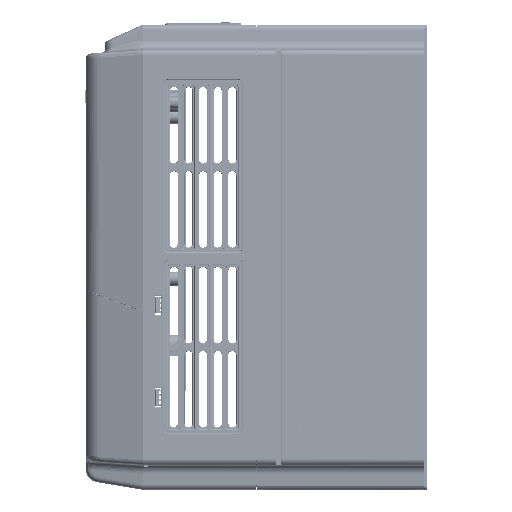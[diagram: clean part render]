
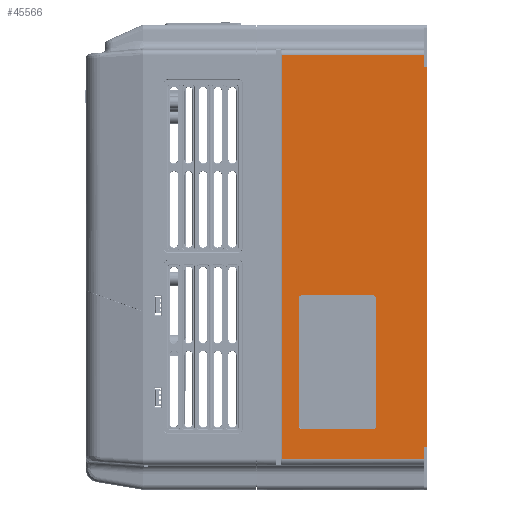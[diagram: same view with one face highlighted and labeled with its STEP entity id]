
A CAD part, left-side view. The second image highlights one B-rep face of the part: STEP entity #45566.
In plain terms, the highlighted planar face has unit normal (-1, 0, 0).
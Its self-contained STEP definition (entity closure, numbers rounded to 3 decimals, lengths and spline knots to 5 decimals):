
#1972=DIRECTION('',(0.,0.,-1.));
#1973=VECTOR('',#1972,0.0065);
#1974=CARTESIAN_POINT('',(-0.0775,-0.0004,-0.1));
#1975=LINE('',#1974,#1973);
#2140=DIRECTION('',(0.,0.,-1.));
#2141=VECTOR('',#2140,0.0065);
#2142=CARTESIAN_POINT('',(-0.0775,-0.0004,0.1065));
#2143=LINE('',#2142,#2141);
#6550=DIRECTION('',(0.,1.,0.));
#6551=VECTOR('',#6550,0.0751);
#6552=CARTESIAN_POINT('',(-0.0775,-0.0004,-0.1065));
#6553=LINE('',#6552,#6551);
#6756=DIRECTION('',(0.,-1.,0.));
#6757=VECTOR('',#6756,0.0751);
#6758=CARTESIAN_POINT('',(-0.0775,0.0747,0.1065));
#6759=LINE('',#6758,#6757);
#15568=DIRECTION('',(0.,1.,0.));
#15569=VECTOR('',#15568,0.0016);
#15570=CARTESIAN_POINT('',(-0.0775,-0.002,0.1));
#15571=LINE('',#15570,#15569);
#15572=DIRECTION('',(0.,0.,1.));
#15573=VECTOR('',#15572,0.2);
#15574=CARTESIAN_POINT('',(-0.0775,-0.002,-0.1));
#15575=LINE('',#15574,#15573);
#15576=DIRECTION('',(0.,-1.,0.));
#15577=VECTOR('',#15576,0.0016);
#15578=CARTESIAN_POINT('',(-0.0775,-0.0004,-0.1));
#15579=LINE('',#15578,#15577);
#15580=CARTESIAN_POINT('',(-0.0775,0.027,-0.022));
#15581=DIRECTION('',(1.,0.,0.));
#15582=DIRECTION('',(0.,0.,1.));
#15583=AXIS2_PLACEMENT_3D('',#15580,#15581,#15582);
#15585=CARTESIAN_POINT('',(-0.0775,0.0635,-0.022));
#15586=DIRECTION('',(1.,0.,0.));
#15587=DIRECTION('',(0.,1.,0.));
#15588=AXIS2_PLACEMENT_3D('',#15585,#15586,#15587);
#15590=CARTESIAN_POINT('',(-0.0775,0.0635,-0.0885));
#15591=DIRECTION('',(1.,0.,0.));
#15592=DIRECTION('',(0.,0.,-1.));
#15593=AXIS2_PLACEMENT_3D('',#15590,#15591,#15592);
#15595=CARTESIAN_POINT('',(-0.0775,0.027,-0.0885));
#15596=DIRECTION('',(1.,0.,0.));
#15597=DIRECTION('',(0.,-1.,0.));
#15598=AXIS2_PLACEMENT_3D('',#15595,#15596,#15597);
#15600=DIRECTION('',(0.,0.,1.));
#15601=VECTOR('',#15600,0.213);
#15602=CARTESIAN_POINT('',(-0.0775,0.0747,-0.1065));
#15603=LINE('',#15602,#15601);
#15649=DIRECTION('',(0.,1.,0.));
#15650=VECTOR('',#15649,0.0365);
#15651=CARTESIAN_POINT('',(-0.0775,0.027,
-0.0198));
#15652=LINE('',#15651,#15650);
#15672=DIRECTION('',(0.,0.,-1.));
#15673=VECTOR('',#15672,0.0665);
#15674=CARTESIAN_POINT('',(-0.0775,0.0657,
-0.022));
#15675=LINE('',#15674,#15673);
#15695=DIRECTION('',(0.,-1.,0.));
#15696=VECTOR('',#15695,0.0365);
#15697=CARTESIAN_POINT('',(-0.0775,0.0635,
-0.0907));
#15698=LINE('',#15697,#15696);
#15718=DIRECTION('',(0.,0.,1.));
#15719=VECTOR('',#15718,0.0665);
#15720=CARTESIAN_POINT('',(-0.0775,0.0248,
-0.0885));
#15721=LINE('',#15720,#15719);
#18643=CARTESIAN_POINT('',(-0.0775,-0.0004,0.1065));
#18644=CARTESIAN_POINT('',(-0.0775,-0.0004,0.1));
#18645=VERTEX_POINT('',#18643);
#18646=VERTEX_POINT('',#18644);
#18647=CARTESIAN_POINT('',(-0.0775,-0.0004,-0.1));
#18648=CARTESIAN_POINT('',(-0.0775,-0.002,-0.1));
#18649=VERTEX_POINT('',#18647);
#18650=VERTEX_POINT('',#18648);
#18651=CARTESIAN_POINT('',(-0.0775,0.0747,0.1065));
#18652=VERTEX_POINT('',#18651);
#18741=CARTESIAN_POINT('',(-0.0775,-0.0004,-0.1065));
#18742=VERTEX_POINT('',#18741);
#18743=CARTESIAN_POINT('',(-0.0775,0.0747,-0.1065));
#18744=VERTEX_POINT('',#18743);
#19631=CARTESIAN_POINT('',(-0.0775,0.027,
-0.0198));
#19632=CARTESIAN_POINT('',(-0.0775,0.0248,
-0.022));
#19633=VERTEX_POINT('',#19631);
#19634=VERTEX_POINT('',#19632);
#19637=CARTESIAN_POINT('',(-0.0775,-0.002,0.1));
#19638=VERTEX_POINT('',#19637);
#19645=CARTESIAN_POINT('',(-0.0775,0.0635,
-0.0198));
#19646=VERTEX_POINT('',#19645);
#19647=CARTESIAN_POINT('',(-0.0775,0.0657,
-0.022));
#19648=VERTEX_POINT('',#19647);
#19651=CARTESIAN_POINT('',(-0.0775,0.0657,
-0.0885));
#19652=VERTEX_POINT('',#19651);
#19653=CARTESIAN_POINT('',(-0.0775,0.0635,
-0.0907));
#19654=VERTEX_POINT('',#19653);
#19655=CARTESIAN_POINT('',(-0.0775,0.027,
-0.0907));
#19656=VERTEX_POINT('',#19655);
#19657=CARTESIAN_POINT('',(-0.0775,0.0248,
-0.0885));
#19658=VERTEX_POINT('',#19657);
#45529=CARTESIAN_POINT('',(-0.0775,0.,-0.1225));
#45530=DIRECTION('',(-1.,0.,0.));
#45531=DIRECTION('',(0.,0.,-1.));
#45532=AXIS2_PLACEMENT_3D('',#45529,#45530,#45531);
#45533=PLANE('',#45532);
#45535=ORIENTED_EDGE('',*,*,#45534,.T.);
#45536=ORIENTED_EDGE('',*,*,#29304,.T.);
#45537=ORIENTED_EDGE('',*,*,#22964,.T.);
#45539=ORIENTED_EDGE('',*,*,#45538,.F.);
#45541=ORIENTED_EDGE('',*,*,#45540,.F.);
#45543=ORIENTED_EDGE('',*,*,#45542,.F.);
#45544=ORIENTED_EDGE('',*,*,#22805,.T.);
#45545=ORIENTED_EDGE('',*,*,#29050,.T.);
#45546=EDGE_LOOP('',(#45535,#45536,#45537,#45539,#45541,#45543,#45544,#45545));
#45547=FACE_OUTER_BOUND('',#45546,.F.);
#45549=ORIENTED_EDGE('',*,*,#45548,.F.);
#45551=ORIENTED_EDGE('',*,*,#45550,.T.);
#45553=ORIENTED_EDGE('',*,*,#45552,.F.);
#45555=ORIENTED_EDGE('',*,*,#45554,.T.);
#45557=ORIENTED_EDGE('',*,*,#45556,.F.);
#45559=ORIENTED_EDGE('',*,*,#45558,.T.);
#45561=ORIENTED_EDGE('',*,*,#45560,.F.);
#45563=ORIENTED_EDGE('',*,*,#45562,.T.);
#45564=EDGE_LOOP('',(#45549,#45551,#45553,#45555,#45557,#45559,#45561,#45563));
#45565=FACE_BOUND('',#45564,.F.);
#45566=ADVANCED_FACE('',(#45547,#45565),#45533,.T.);
#15584=CIRCLE('',#15583,0.0022);
#15589=CIRCLE('',#15588,0.0022);
#15594=CIRCLE('',#15593,0.0022);
#15599=CIRCLE('',#15598,0.0022);
#22805=EDGE_CURVE('',#18649,#18742,#1975,.T.);
#22964=EDGE_CURVE('',#18645,#18646,#2143,.T.);
#29050=EDGE_CURVE('',#18742,#18744,#6553,.T.);
#29304=EDGE_CURVE('',#18652,#18645,#6759,.T.);
#45534=EDGE_CURVE('',#18744,#18652,#15603,.T.);
#45538=EDGE_CURVE('',#19638,#18646,#15571,.T.);
#45540=EDGE_CURVE('',#18650,#19638,#15575,.T.);
#45542=EDGE_CURVE('',#18649,#18650,#15579,.T.);
#45548=EDGE_CURVE('',#19633,#19634,#15584,.T.);
#45550=EDGE_CURVE('',#19633,#19646,#15652,.T.);
#45552=EDGE_CURVE('',#19648,#19646,#15589,.T.);
#45554=EDGE_CURVE('',#19648,#19652,#15675,.T.);
#45556=EDGE_CURVE('',#19654,#19652,#15594,.T.);
#45558=EDGE_CURVE('',#19654,#19656,#15698,.T.);
#45560=EDGE_CURVE('',#19658,#19656,#15599,.T.);
#45562=EDGE_CURVE('',#19658,#19634,#15721,.T.);
